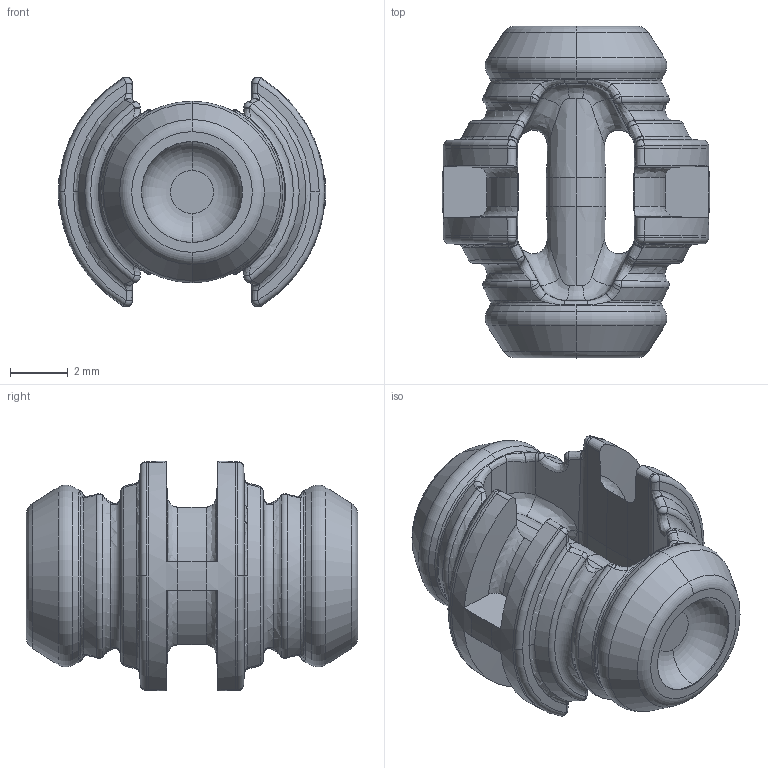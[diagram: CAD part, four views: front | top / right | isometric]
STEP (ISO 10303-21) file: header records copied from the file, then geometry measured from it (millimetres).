
FILE_DESCRIPTION (( 'STEP AP203' ), '1' );
FILE_NAME ('Diva Male 3mm_customer_.STEP', '2021-12-10T08:26:19', ( '' ), ( '' ), 'SwSTEP 2.0', 'SolidWorks 2020', '' );
FILE_SCHEMA (( 'CONFIG_CONTROL_DESIGN' ));
Length unit declared in the file: millimetre
Products named in the file (1): Diva Male 3mm_customer_
Bounding box: 9.26 x 11.5 x 7.97 mm (x, y, z)
Surface area: 464.6 mm2 (no closed solid volume)
Topology: 0 solids, 5 shells, 296 faces, 756 edges, 444 vertices
Faces by surface type: bspline 108, cone 62, torus 48, plane 32, sphere 28, cylinder 18
Entity records: 11788 total; most frequent: CARTESIAN_POINT 5820, ORIENTED_EDGE 1380, DIRECTION 1042, EDGE_CURVE 708, AXIS2_PLACEMENT_3D 473, VERTEX_POINT 412, B_SPLINE_CURVE_WITH_KNOTS 308, EDGE_LOOP 298
